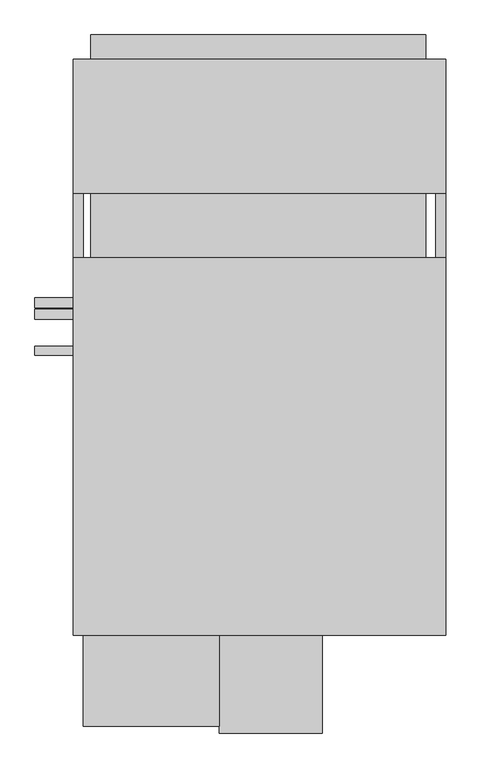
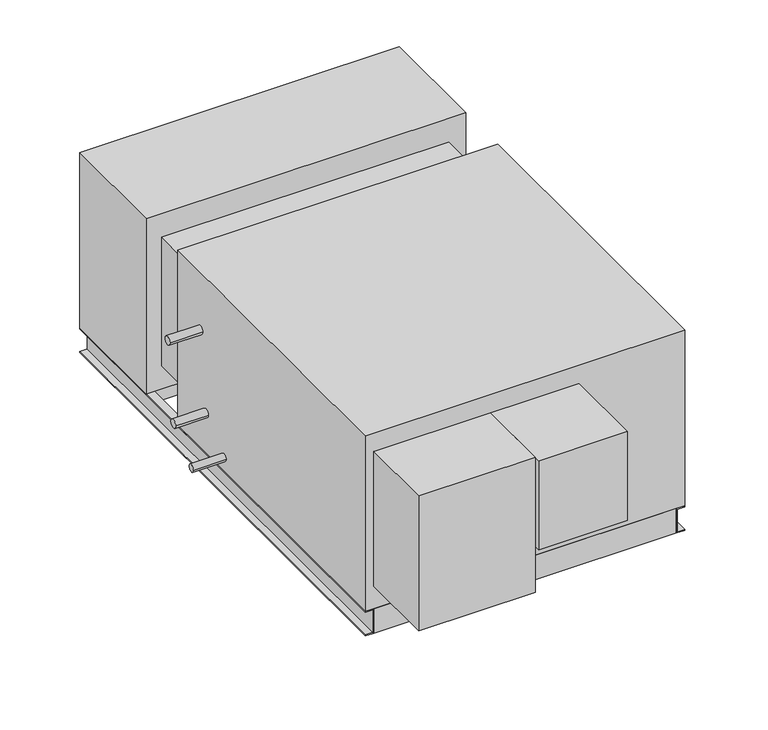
"""IFC4 building model written with IfcOpenShell, lengths in millimetres: proxy geometry, Horizontal_Direct_Drive_Blower_Coil_Unit_-_42DHA_-_CARRIER_-_2-Pipe_Cool-EHeat_NFilterR_W-MixingBox_LH_2022 : Size 10 - 460v/60Hz/3Ph - 8 Row 9.9kW LH."""

from ifc_helpers import new_model, si_unit, point, frame, frame_2d, origin, place, context, project, spatial, polyline, circle_curve, trimmed, segment, composite_curve, outline, extrude, source, transform, mapped, element, save


def mechanical_equipment_32fd8639(model_context):
    return source(origin(), model_context, "Body", "SweptSolid", [
        extrude(outline(polyline([(-177.8, 890.905), (-177.8, 687.705), (-1022.35, 687.705), (-1022.35, 890.905), (-177.8, 890.905)])), frame((0.0, 0.0, -607.06), z_axis=(0.0, 0.0, 1.0), x_axis=(1.0, 0.0, 0.0)), (0.0, 0.0, 1.0), 60.96),
        extrude(outline(polyline([(-1022.35, 1053.465), (-177.8, 1053.465), (-177.8, 992.505), (-1022.35, 992.505), (-1022.35, 1053.465)])), frame((0.0, 0.0, -279.4), z_axis=(0.0, 0.0, 1.0), x_axis=(1.0, 0.0, 0.0)), (0.0, 0.0, 1.0), 203.2),
        extrude(outline(polyline([(-127.0, 992.505), (-127.0, 654.05), (-1066.8, 654.05), (-1066.8, 992.505), (-127.0, 992.505)])), frame((0.0, 0.0, -546.1), z_axis=(0.0, 0.0, 1.0), x_axis=(1.0, 0.0, 0.0)), (0.0, 0.0, 1.0), 546.1),
        extrude(outline(polyline([(-152.4, -434.975), (-152.4, -460.375), (-1041.4, -460.375), (-1041.4, -434.975), (-152.4, -434.975)])), frame((0.0, 0.0, -622.3), z_axis=(0.0, 0.0, 1.0), x_axis=(1.0, 0.0, 0.0)), (0.0, 0.0, 1.0), 76.2),
        extrude(outline(polyline([(-152.4, 992.505), (-152.4, 967.105), (-1041.4, 967.105), (-1041.4, 992.505), (-152.4, 992.505)])), frame((0.0, 0.0, -622.3), z_axis=(0.0, 0.0, 1.0), x_axis=(1.0, 0.0, 0.0)), (0.0, 0.0, 1.0), 76.2),
        extrude(outline(polyline([(-546.1, -1041.4), (-546.1, -1066.8), (-549.275, -1066.8), (-549.275, -1044.575), (-619.125, -1044.575), (-619.125, -1066.8), (-622.3, -1066.8), (-622.3, -1041.4), (-546.1, -1041.4)])), frame((0.0, -460.375, 0.0), z_axis=(0.0, 1.0, 0.0), x_axis=(0.0, 0.0, 1.0)), (0.0, 0.0, 1.0), 1452.88),
        extrude(outline(polyline([(-546.1, -152.4), (-622.3, -152.4), (-622.3, -127.0), (-619.125, -127.0), (-619.125, -149.225), (-549.275, -149.225), (-549.275, -127.0), (-546.1, -127.0), (-546.1, -152.4)])), frame((0.0, -460.375, 0.0), z_axis=(0.0, 1.0, 0.0), x_axis=(0.0, 0.0, 1.0)), (0.0, 0.0, 1.0), 1452.88),
        extrude(outline(composite_curve([segment(trimmed(circle_curve(frame_2d((377.825, -177.8)), 12.7), [point((365.125, -177.8))], [point((390.525, -177.8))], False, "CARTESIAN"), True, "CONTINUOUS"), segment(trimmed(circle_curve(frame_2d((377.825, -177.8)), 12.7), [point((390.525, -177.8))], [point((365.125, -177.8))], False, "CARTESIAN"), True, "CONTINUOUS")], self_intersect=False)), frame((-1163.1025559, 0.0, 0.0), z_axis=(1.0, 0.0, 0.0), x_axis=(0.0, 1.0, 0.0)), (0.0, 0.0, 1.0), 96.3025559),
        extrude(outline(composite_curve([segment(trimmed(circle_curve(frame_2d((348.9715397, -419.1)), 12.7), [point((336.2715397, -419.1))], [point((361.6715397, -419.1))], False, "CARTESIAN"), True, "CONTINUOUS"), segment(trimmed(circle_curve(frame_2d((348.9715397, -419.1)), 12.7), [point((361.6715397, -419.1))], [point((336.2715397, -419.1))], False, "CARTESIAN"), True, "CONTINUOUS")], self_intersect=False)), frame((-1163.1025559, 0.0, 0.0), z_axis=(1.0, 0.0, 0.0), x_axis=(0.0, 1.0, 0.0)), (0.0, 0.0, 1.0), 96.3025559),
        extrude(outline(composite_curve([segment(trimmed(circle_curve(frame_2d((257.175, -501.65)), 11.1125), [point((246.0625, -501.65))], [point((268.2875, -501.65))], False, "CARTESIAN"), True, "CONTINUOUS"), segment(trimmed(circle_curve(frame_2d((257.175, -501.65)), 11.1125), [point((268.2875, -501.65))], [point((246.0625, -501.65))], False, "CARTESIAN"), True, "CONTINUOUS")], self_intersect=False)), frame((-1163.1025559, 0.0, 0.0), z_axis=(1.0, 0.0, 0.0), x_axis=(0.0, 1.0, 0.0)), (0.0, 0.0, 1.0), 96.3025559),
        extrude(outline(polyline([(-127.0, 492.125), (-127.0, -460.375), (-1066.8, -460.375), (-1066.8, 492.125), (-127.0, 492.125)])), frame((0.0, 0.0, -546.1), z_axis=(0.0, 0.0, 1.0), x_axis=(1.0, 0.0, 0.0)), (0.0, 0.0, 1.0), 546.1),
        extrude(outline(polyline([(-698.5, -688.975), (-1041.4, -688.975), (-1041.4, -460.375), (-698.5, -460.375), (-698.5, -688.975)])), frame((0.0, 0.0, -476.25), z_axis=(0.0, 0.0, 1.0), x_axis=(1.0, 0.0, 0.0)), (0.0, 0.0, 1.0), 419.1),
        extrude(outline(polyline([(-1022.35, 654.05), (-177.8, 654.05), (-177.8, 492.125), (-1022.35, 492.125), (-1022.35, 654.05)])), frame((0.0, 0.0, -473.075), z_axis=(0.0, 0.0, 1.0), x_axis=(1.0, 0.0, 0.0)), (0.0, 0.0, 1.0), 400.05),
        extrude(outline(polyline([(-438.15, -706.4375), (-698.5, -706.4375), (-698.5, -460.375), (-438.15, -460.375), (-438.15, -706.4375)])), frame((0.0, 0.0, -333.375), z_axis=(0.0, 0.0, 1.0), x_axis=(1.0, 0.0, 0.0)), (0.0, 0.0, 1.0), 276.225),
    ])


if __name__ == "__main__":
    model = new_model("IFC4")
    model_context = context("Model", 3, world=origin())
    ifc_project = project(units=[si_unit("LENGTHUNIT", "METRE", prefix="MILLI")], contexts=[model_context])
    site = spatial("IfcSite", under=ifc_project)
    building = spatial("IfcBuilding", under=site)
    placement = place(None, origin())
    mechanical_equipment_shape = mechanical_equipment_32fd8639(model_context)
    element("IfcBuildingElementProxy", 1, Name="Horizontal_Direct_Drive_Blower_Coil_Unit_-_42DHA_-_CARRIER_-_2-Pipe_Cool-EHeat_NFilterR_W-MixingBox_LH_2022 : Size 10 - 460v/60Hz/3Ph - 8 Row 9.9kW LH", ObjectType="Horizontal_Direct_Drive_Blower_Coil_Unit_-_42DHA_-_CARRIER_-_2-Pipe_Cool-EHeat_NFilterR_W-MixingBox_LH_2022 : Size 10 - 460v/60Hz/3Ph - 8 Row 9.9kW LH", at=placement, inside=building, context=model_context, shape_type="MappedRepresentation", body=[
        mapped(mechanical_equipment_shape, transform((0.0, 0.0, 0.0), x_axis=(1.0, 0.0, 0.0), y_axis=(0.0, 1.0, 0.0), z_axis=(0.0, 0.0, 1.0))),
    ])
    save(model, "model.ifc")
